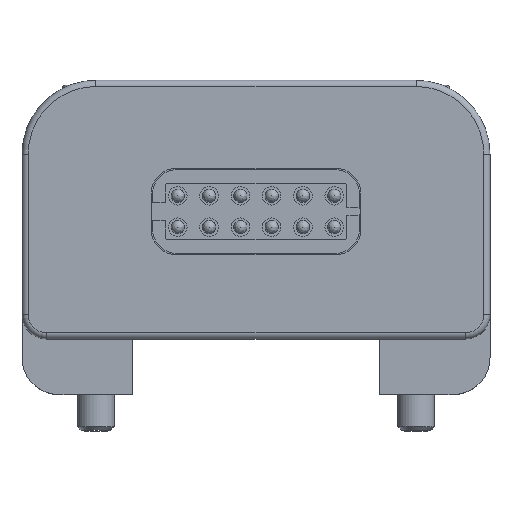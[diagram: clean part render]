
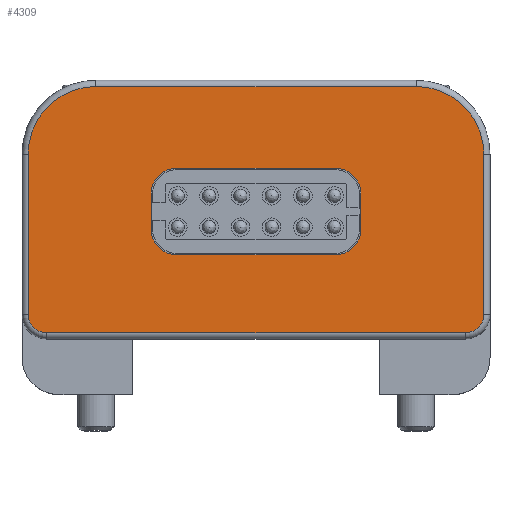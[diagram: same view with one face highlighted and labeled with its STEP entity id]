
A CAD part, top view. The second image highlights one B-rep face of the part: STEP entity #4309.
In plain terms, the highlighted planar face has unit normal (0, 0, 1).
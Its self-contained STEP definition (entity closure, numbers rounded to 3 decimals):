
#247=FACE_BOUND('',#1251,.T.);
#315=LINE('',#6392,#586);
#318=LINE('',#6400,#589);
#410=LINE('',#7314,#681);
#412=LINE('',#7326,#683);
#414=LINE('',#7338,#685);
#416=LINE('',#7347,#687);
#432=LINE('',#7401,#703);
#433=LINE('',#7404,#704);
#586=VECTOR('',#5087,10.);
#589=VECTOR('',#5096,10.);
#681=VECTOR('',#5676,10.);
#683=VECTOR('',#5690,10.);
#685=VECTOR('',#5704,10.);
#687=VECTOR('',#5716,10.);
#703=VECTOR('',#5750,10.);
#704=VECTOR('',#5753,10.);
#960=FACE_OUTER_BOUND('',#1250,.T.);
#1250=EDGE_LOOP('',(#3280,#3281,#3282,#3283,#3284,#3285,#3286,#3287));
#1251=EDGE_LOOP('',(#3288,#3289,#3290,#3291,#3292,#3293,#3294,#3295));
#1404=CIRCLE('',#4487,2.);
#1405=CIRCLE('',#4490,2.);
#1535=CIRCLE('',#4731,5.5);
#1541=CIRCLE('',#4739,5.5);
#1545=CIRCLE('',#4745,1.5);
#1549=CIRCLE('',#4751,1.5);
#1553=CIRCLE('',#4761,2.);
#1554=CIRCLE('',#4762,2.);
#1692=VERTEX_POINT('',#6384);
#1693=VERTEX_POINT('',#6386);
#1694=VERTEX_POINT('',#6390);
#1695=VERTEX_POINT('',#6394);
#1696=VERTEX_POINT('',#6398);
#1850=VERTEX_POINT('',#7302);
#1851=VERTEX_POINT('',#7304);
#1853=VERTEX_POINT('',#7310);
#1855=VERTEX_POINT('',#7316);
#1857=VERTEX_POINT('',#7322);
#1859=VERTEX_POINT('',#7328);
#1861=VERTEX_POINT('',#7334);
#1863=VERTEX_POINT('',#7340);
#1878=VERTEX_POINT('',#7398);
#1879=VERTEX_POINT('',#7400);
#1880=VERTEX_POINT('',#7402);
#2094=EDGE_CURVE('',#1693,#1692,#1404,.T.);
#2097=EDGE_CURVE('',#1692,#1694,#315,.T.);
#2099=EDGE_CURVE('',#1694,#1695,#1405,.T.);
#2101=EDGE_CURVE('',#1695,#1696,#318,.T.);
#2341=EDGE_CURVE('',#1850,#1851,#1535,.T.);
#2346=EDGE_CURVE('',#1851,#1853,#410,.T.);
#2349=EDGE_CURVE('',#1853,#1855,#1541,.T.);
#2352=EDGE_CURVE('',#1855,#1857,#412,.T.);
#2355=EDGE_CURVE('',#1857,#1859,#1545,.T.);
#2358=EDGE_CURVE('',#1859,#1861,#414,.T.);
#2361=EDGE_CURVE('',#1861,#1863,#1549,.T.);
#2363=EDGE_CURVE('',#1863,#1850,#416,.T.);
#2384=EDGE_CURVE('',#1696,#1878,#1553,.T.);
#2385=EDGE_CURVE('',#1878,#1879,#432,.T.);
#2386=EDGE_CURVE('',#1879,#1880,#1554,.T.);
#2387=EDGE_CURVE('',#1880,#1693,#433,.T.);
#3280=ORIENTED_EDGE('',*,*,#2341,.F.);
#3281=ORIENTED_EDGE('',*,*,#2363,.F.);
#3282=ORIENTED_EDGE('',*,*,#2361,.F.);
#3283=ORIENTED_EDGE('',*,*,#2358,.F.);
#3284=ORIENTED_EDGE('',*,*,#2355,.F.);
#3285=ORIENTED_EDGE('',*,*,#2352,.F.);
#3286=ORIENTED_EDGE('',*,*,#2349,.F.);
#3287=ORIENTED_EDGE('',*,*,#2346,.F.);
#3288=ORIENTED_EDGE('',*,*,#2094,.T.);
#3289=ORIENTED_EDGE('',*,*,#2097,.T.);
#3290=ORIENTED_EDGE('',*,*,#2099,.T.);
#3291=ORIENTED_EDGE('',*,*,#2101,.T.);
#3292=ORIENTED_EDGE('',*,*,#2384,.T.);
#3293=ORIENTED_EDGE('',*,*,#2385,.T.);
#3294=ORIENTED_EDGE('',*,*,#2386,.T.);
#3295=ORIENTED_EDGE('',*,*,#2387,.T.);
#3841=PLANE('',#4760);
#4309=ADVANCED_FACE('',(#960,#247),#3841,.T.);
#4487=AXIS2_PLACEMENT_3D('',#6387,#5081,#5082);
#4490=AXIS2_PLACEMENT_3D('',#6396,#5091,#5092);
#4731=AXIS2_PLACEMENT_3D('',#7305,#5665,#5666);
#4739=AXIS2_PLACEMENT_3D('',#7320,#5683,#5684);
#4745=AXIS2_PLACEMENT_3D('',#7332,#5697,#5698);
#4751=AXIS2_PLACEMENT_3D('',#7344,#5711,#5712);
#4760=AXIS2_PLACEMENT_3D('',#7397,#5746,#5747);
#4761=AXIS2_PLACEMENT_3D('',#7399,#5748,#5749);
#4762=AXIS2_PLACEMENT_3D('',#7403,#5751,#5752);
#5081=DIRECTION('center_axis',(0.,0.,
-1.));
#5082=DIRECTION('ref_axis',(-1.,0.,0.));
#5087=DIRECTION('',(0.,-1.,0.));
#5091=DIRECTION('center_axis',(0.,0.,
-1.));
#5092=DIRECTION('ref_axis',(0.,1.,0.));
#5096=DIRECTION('',(-1.,0.,0.));
#5665=DIRECTION('center_axis',(0.,0.,
-1.));
#5666=DIRECTION('ref_axis',(-0.707,0.707,0.));
#5676=DIRECTION('',(1.,0.,0.));
#5683=DIRECTION('center_axis',(0.,0.,
-1.));
#5684=DIRECTION('ref_axis',(0.707,0.707,0.));
#5690=DIRECTION('',(0.,-1.,0.));
#5697=DIRECTION('center_axis',(0.,0.,
-1.));
#5698=DIRECTION('ref_axis',(0.707,-0.707,0.));
#5704=DIRECTION('',(-1.,0.,0.));
#5711=DIRECTION('center_axis',(0.,0.,
-1.));
#5712=DIRECTION('ref_axis',(-0.707,-0.707,0.));
#5716=DIRECTION('',(0.,1.,0.));
#5746=DIRECTION('center_axis',(0.,0.,
1.));
#5747=DIRECTION('ref_axis',(1.,0.,0.));
#5748=DIRECTION('center_axis',(0.,0.,
-1.));
#5749=DIRECTION('ref_axis',(1.,0.,0.));
#5750=DIRECTION('',(0.,1.,0.));
#5751=DIRECTION('center_axis',(0.,0.,
-1.));
#5752=DIRECTION('ref_axis',(0.,-1.,0.));
#5753=DIRECTION('',(1.,0.,0.));
#6384=CARTESIAN_POINT('',(8.5,-2.5,13.8));
#6386=CARTESIAN_POINT('',(6.5,-0.5,13.8));
#6387=CARTESIAN_POINT('Origin',(6.5,-2.5,13.8));
#6390=CARTESIAN_POINT('',(8.5,-5.5,13.8));
#6392=CARTESIAN_POINT('',(8.5,-5.8,13.8));
#6394=CARTESIAN_POINT('',(6.5,-7.5,13.8));
#6396=CARTESIAN_POINT('Origin',(6.5,-5.5,13.8));
#6398=CARTESIAN_POINT('',(-6.5,-7.5,13.8));
#6400=CARTESIAN_POINT('',(-3.25,-7.5,13.8));
#7302=CARTESIAN_POINT('',(-18.5,0.65,13.8));
#7304=CARTESIAN_POINT('',(-13.,6.15,13.8));
#7305=CARTESIAN_POINT('Origin',(-13.,0.65,13.8));
#7310=CARTESIAN_POINT('',(13.,6.15,13.8));
#7314=CARTESIAN_POINT('',(-9.5,6.15,13.8));
#7316=CARTESIAN_POINT('',(18.5,0.65,13.8));
#7320=CARTESIAN_POINT('Origin',(13.,0.65,13.8));
#7322=CARTESIAN_POINT('',(18.5,-12.35,13.8));
#7326=CARTESIAN_POINT('',(18.5,0.275,13.8));
#7328=CARTESIAN_POINT('',(17.,-13.85,13.8));
#7332=CARTESIAN_POINT('Origin',(17.,-12.35,13.8));
#7334=CARTESIAN_POINT('',(-17.,-13.85,13.8));
#7338=CARTESIAN_POINT('',(-5.,-13.85,13.8));
#7340=CARTESIAN_POINT('',(-18.5,-12.35,13.8));
#7344=CARTESIAN_POINT('Origin',(-17.,-12.35,13.8));
#7347=CARTESIAN_POINT('',(-18.5,-12.475,13.8));
#7397=CARTESIAN_POINT('Origin',(0.,-6.1,13.8));
#7398=CARTESIAN_POINT('',(-8.5,-5.5,13.8));
#7399=CARTESIAN_POINT('Origin',(-6.5,-5.5,13.8));
#7400=CARTESIAN_POINT('',(-8.5,-2.5,13.8));
#7401=CARTESIAN_POINT('',(-8.5,-4.3,13.8));
#7402=CARTESIAN_POINT('',(-6.5,-0.5,13.8));
#7403=CARTESIAN_POINT('Origin',(-6.5,-2.5,13.8));
#7404=CARTESIAN_POINT('',(3.25,-0.5,13.8));
